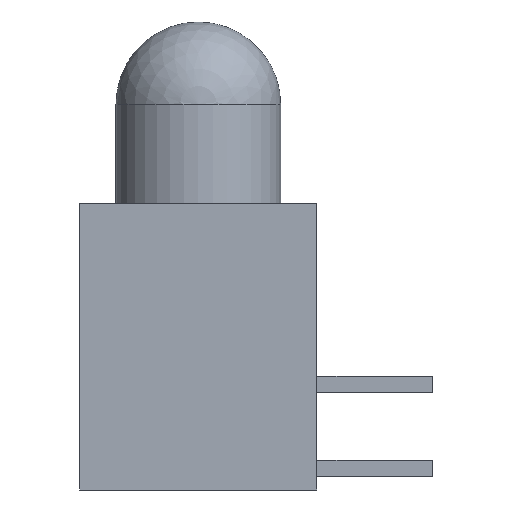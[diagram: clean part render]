
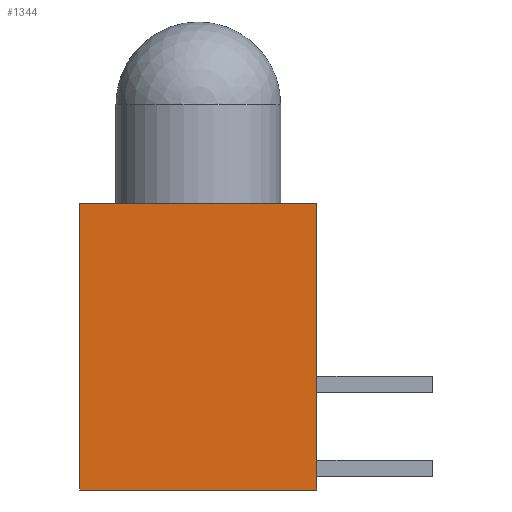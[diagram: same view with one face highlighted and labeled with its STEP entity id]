
A CAD part, left-side view. The second image highlights one B-rep face of the part: STEP entity #1344.
In plain terms, the highlighted planar face has unit normal (-1, 0, 0).
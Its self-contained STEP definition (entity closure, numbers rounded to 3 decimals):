
#48 = ORIENTED_EDGE ( 'NONE', *, *, #2282, .F. ) ;
#79 = VERTEX_POINT ( 'NONE', #1129 ) ;
#274 = CARTESIAN_POINT ( 'NONE',  ( 0., 0., 8.7 ) ) ;
#278 = PLANE ( 'NONE',  #376 ) ;
#365 = DIRECTION ( 'NONE',  ( 0., -1., 0. ) ) ;
#376 = AXIS2_PLACEMENT_3D ( 'NONE', #1712, #419, #1541 ) ;
#419 = DIRECTION ( 'NONE',  ( 1., 0., 0. ) ) ;
#470 = EDGE_LOOP ( 'NONE', ( #2062, #48, #1301, #1306 ) ) ;
#494 = VECTOR ( 'NONE', #936, 1000. ) ;
#496 = VERTEX_POINT ( 'NONE', #274 ) ;
#561 = LINE ( 'NONE', #1634, #2245 ) ;
#772 = FACE_OUTER_BOUND ( 'NONE', #470, .T. ) ;
#910 = CARTESIAN_POINT ( 'NONE',  ( 0., 0., 8.7 ) ) ;
#936 = DIRECTION ( 'NONE',  ( 0., 0., -1. ) ) ;
#995 = EDGE_CURVE ( 'NONE', #1635, #496, #1450, .T. ) ;
#1046 = CARTESIAN_POINT ( 'NONE',  ( 0., 7.2, 8.7 ) ) ;
#1090 = EDGE_CURVE ( 'NONE', #1635, #79, #1373, .T. ) ;
#1129 = CARTESIAN_POINT ( 'NONE',  ( 0., 7.2, 0. ) ) ;
#1187 = LINE ( 'NONE', #910, #494 ) ;
#1301 = ORIENTED_EDGE ( 'NONE', *, *, #995, .F. ) ;
#1306 = ORIENTED_EDGE ( 'NONE', *, *, #1090, .T. ) ;
#1311 = CARTESIAN_POINT ( 'NONE',  ( 0., 0., 0. ) ) ;
#1344 = ADVANCED_FACE ( 'NONE', ( #772 ), #278, .F. ) ;
#1373 = LINE ( 'NONE', #1526, #1735 ) ;
#1450 = LINE ( 'NONE', #2171, #2019 ) ;
#1526 = CARTESIAN_POINT ( 'NONE',  ( 0., 7.2, 8.7 ) ) ;
#1533 = DIRECTION ( 'NONE',  ( 0., 0., -1. ) ) ;
#1541 = DIRECTION ( 'NONE',  ( 0., 0., -1. ) ) ;
#1634 = CARTESIAN_POINT ( 'NONE',  ( 0., 0., 0. ) ) ;
#1635 = VERTEX_POINT ( 'NONE', #1046 ) ;
#1642 = DIRECTION ( 'NONE',  ( 0., -1., 0. ) ) ;
#1712 = CARTESIAN_POINT ( 'NONE',  ( 0., 0., 8.7 ) ) ;
#1735 = VECTOR ( 'NONE', #1533, 1000. ) ;
#1798 = EDGE_CURVE ( 'NONE', #79, #2312, #561, .T. ) ;
#2019 = VECTOR ( 'NONE', #365, 1000. ) ;
#2062 = ORIENTED_EDGE ( 'NONE', *, *, #1798, .T. ) ;
#2171 = CARTESIAN_POINT ( 'NONE',  ( 0., 0., 8.7 ) ) ;
#2245 = VECTOR ( 'NONE', #1642, 1000. ) ;
#2282 = EDGE_CURVE ( 'NONE', #496, #2312, #1187, .T. ) ;
#2312 = VERTEX_POINT ( 'NONE', #1311 ) ;
